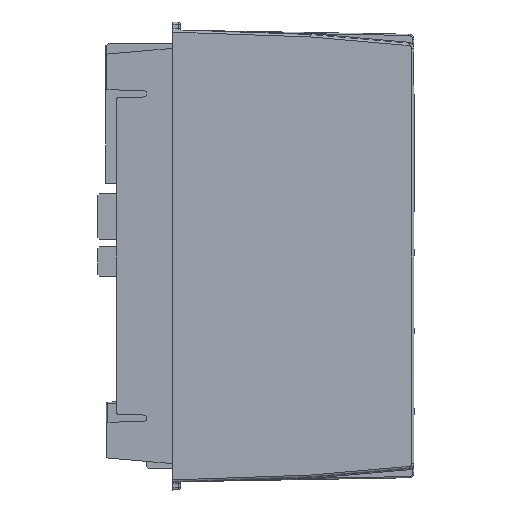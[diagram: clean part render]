
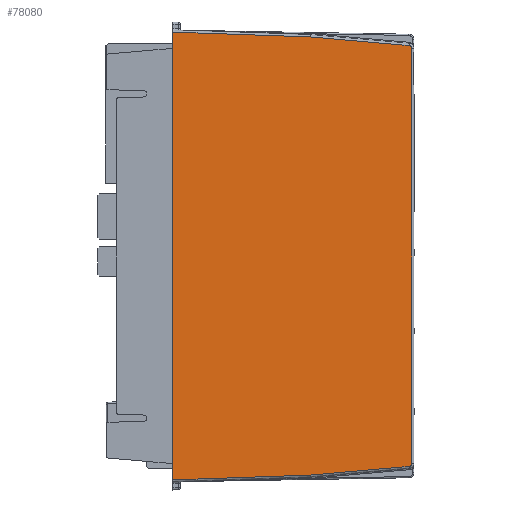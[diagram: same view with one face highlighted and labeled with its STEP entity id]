
A CAD part, left-side view. The second image highlights one B-rep face of the part: STEP entity #78080.
In plain terms, the highlighted planar face has unit normal (-1, -0.018, 0).
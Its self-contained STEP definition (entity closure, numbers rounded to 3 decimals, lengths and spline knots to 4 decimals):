
#393=ELLIPSE('',#82429,0.0315,0.0315);
#394=ELLIPSE('',#82430,0.0315,0.0315);
#3320=PLANE('',#82428);
#6460=FACE_OUTER_BOUND('',#10512,.T.);
#10512=EDGE_LOOP('',(#60834,#60835,#60836,#60837,#60838,#60839,#60840,#60841,
#60842,#60843));
#17871=LINE('',#122535,#26601);
#17872=LINE('',#122537,#26602);
#17873=LINE('',#122541,#26603);
#17874=LINE('',#122545,#26604);
#17875=LINE('',#122547,#26605);
#17876=LINE('',#122549,#26606);
#17877=LINE('',#122551,#26607);
#17878=LINE('',#122552,#26608);
#26601=VECTOR('',#95570,39.3701);
#26602=VECTOR('',#95571,39.3701);
#26603=VECTOR('',#95574,39.3701);
#26604=VECTOR('',#95577,39.3701);
#26605=VECTOR('',#95578,39.3701);
#26606=VECTOR('',#95579,39.3701);
#26607=VECTOR('',#95580,39.3701);
#26608=VECTOR('',#95581,39.3701);
#35389=VERTEX_POINT('',#122533);
#35390=VERTEX_POINT('',#122534);
#35391=VERTEX_POINT('',#122536);
#35392=VERTEX_POINT('',#122538);
#35393=VERTEX_POINT('',#122540);
#35394=VERTEX_POINT('',#122542);
#35395=VERTEX_POINT('',#122544);
#35396=VERTEX_POINT('',#122546);
#35397=VERTEX_POINT('',#122548);
#35398=VERTEX_POINT('',#122550);
#44392=EDGE_CURVE('',#35389,#35390,#17871,.T.);
#44393=EDGE_CURVE('',#35390,#35391,#17872,.T.);
#44394=EDGE_CURVE('',#35391,#35392,#393,.T.);
#44395=EDGE_CURVE('',#35392,#35393,#17873,.T.);
#44396=EDGE_CURVE('',#35393,#35394,#394,.T.);
#44397=EDGE_CURVE('',#35394,#35395,#17874,.T.);
#44398=EDGE_CURVE('',#35395,#35396,#17875,.T.);
#44399=EDGE_CURVE('',#35396,#35397,#17876,.T.);
#44400=EDGE_CURVE('',#35398,#35397,#17877,.T.);
#44401=EDGE_CURVE('',#35398,#35389,#17878,.T.);
#60834=ORIENTED_EDGE('',*,*,#44392,.T.);
#60835=ORIENTED_EDGE('',*,*,#44393,.T.);
#60836=ORIENTED_EDGE('',*,*,#44394,.T.);
#60837=ORIENTED_EDGE('',*,*,#44395,.T.);
#60838=ORIENTED_EDGE('',*,*,#44396,.T.);
#60839=ORIENTED_EDGE('',*,*,#44397,.T.);
#60840=ORIENTED_EDGE('',*,*,#44398,.T.);
#60841=ORIENTED_EDGE('',*,*,#44399,.T.);
#60842=ORIENTED_EDGE('',*,*,#44400,.F.);
#60843=ORIENTED_EDGE('',*,*,#44401,.T.);
#78080=ADVANCED_FACE('',(#6460),#3320,.T.);
#82428=AXIS2_PLACEMENT_3D('',#122532,#95568,#95569);
#82429=AXIS2_PLACEMENT_3D('',#122539,#95572,#95573);
#82430=AXIS2_PLACEMENT_3D('',#122543,#95575,#95576);
#95568=DIRECTION('center_axis',(-1.,-0.017,
0.));
#95569=DIRECTION('ref_axis',(-0.017,1.,0.));
#95570=DIRECTION('',(0.017,-0.999,0.035));
#95571=DIRECTION('',(0.017,-0.996,0.087));
#95572=DIRECTION('center_axis',(-1.,-0.017,
0.));
#95573=DIRECTION('ref_axis',(0.017,-1.,0.));
#95574=DIRECTION('',(0.,0.,1.));
#95575=DIRECTION('center_axis',(-1.,-0.017,
0.));
#95576=DIRECTION('ref_axis',(0.017,-1.,0.));
#95577=DIRECTION('',(-0.017,0.996,0.087));
#95578=DIRECTION('',(-0.017,0.999,0.035));
#95579=DIRECTION('',(0.,0.,-1.));
#95580=DIRECTION('',(0.,0.,1.));
#95581=DIRECTION('',(0.,0.,-1.));
#122532=CARTESIAN_POINT('Origin',(-0.0295,-0.4749,
-2.0669));
#122533=CARTESIAN_POINT('',(-0.0227,-0.8686,-4.2421));
#122534=CARTESIAN_POINT('',(0.0007,-2.2063,-4.1954));
#122535=CARTESIAN_POINT('',(-0.0282,-0.5512,-4.2532));
#122536=CARTESIAN_POINT('',(0.0174,-3.163,-4.1117));
#122537=CARTESIAN_POINT('',(-0.0261,-0.6728,-4.3296));
#122538=CARTESIAN_POINT('',(0.0179,-3.1918,-4.0803));
#122539=CARTESIAN_POINT('Origin',(0.0173,-3.1603,-4.0803));
#122540=CARTESIAN_POINT('',(0.0179,-3.1918,-0.0535));
#122541=CARTESIAN_POINT('',(0.0179,-3.1918,-0.0535));
#122542=CARTESIAN_POINT('',(0.0174,-3.163,-0.0221));
#122543=CARTESIAN_POINT('Origin',(0.0173,-3.1603,
-0.0535));
#122544=CARTESIAN_POINT('',(0.0007,-2.2063,0.0616));
#122545=CARTESIAN_POINT('',(-0.0261,-0.6728,0.1957));
#122546=CARTESIAN_POINT('',(-0.0227,-0.8686,0.1083));
#122547=CARTESIAN_POINT('',(-0.0282,-0.5512,0.1194));
#122548=CARTESIAN_POINT('',(-0.0227,-0.8686,-0.0312));
#122549=CARTESIAN_POINT('',(-0.0227,-0.8686,0.128));
#122550=CARTESIAN_POINT('',(-0.0227,-0.8686,-4.1027));
#122551=CARTESIAN_POINT('',(-0.0227,-0.8686,-7.5932));
#122552=CARTESIAN_POINT('',(-0.0227,-0.8686,0.128));
